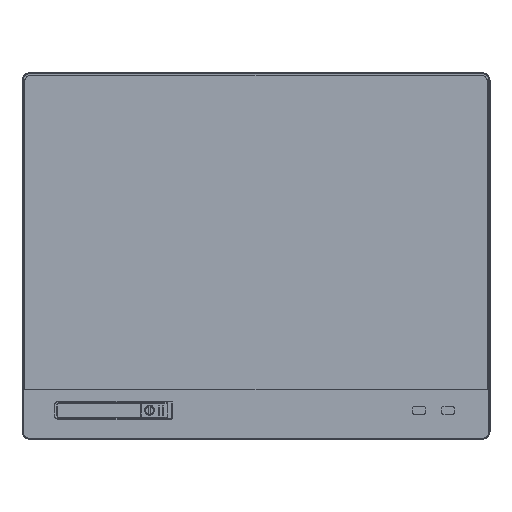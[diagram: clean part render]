
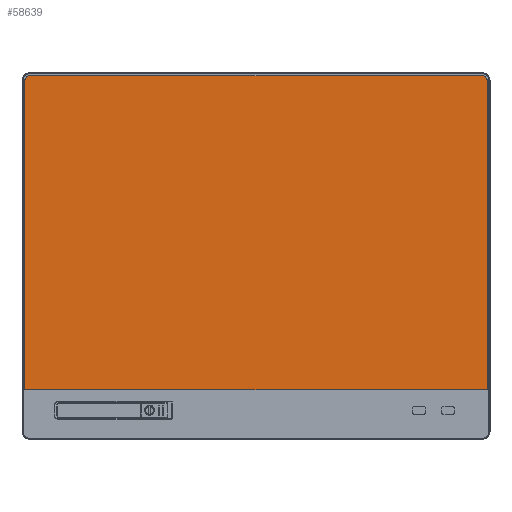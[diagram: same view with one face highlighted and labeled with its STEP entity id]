
A CAD part, top view. The second image highlights one B-rep face of the part: STEP entity #58639.
In plain terms, the highlighted planar face has unit normal (0, 0, 1).
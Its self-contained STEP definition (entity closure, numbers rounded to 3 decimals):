
#7517=CARTESIAN_POINT('',(-156.7,123.2,2.25));
#7518=DIRECTION('',(0.,0.,1.));
#7519=DIRECTION('',(0.,1.,0.));
#7520=AXIS2_PLACEMENT_3D('',#7517,#7518,#7519);
#7522=DIRECTION('',(-1.,0.,0.));
#7523=VECTOR('',#7522,313.4);
#7524=CARTESIAN_POINT('',(156.7,126.745,2.25));
#7525=LINE('',#7524,#7523);
#7526=CARTESIAN_POINT('',(156.7,123.2,2.25));
#7527=DIRECTION('',(0.,0.,1.));
#7528=DIRECTION('',(1.,0.,0.));
#7529=AXIS2_PLACEMENT_3D('',#7526,#7527,#7528);
#7531=DIRECTION('',(0.,1.,0.));
#7532=VECTOR('',#7531,214.309);
#7533=CARTESIAN_POINT('',(160.245,-91.109,2.25));
#7534=LINE('',#7533,#7532);
#7535=DIRECTION('',(1.,0.,0.));
#7536=VECTOR('',#7535,320.489);
#7537=CARTESIAN_POINT('',(-160.245,-91.109,2.25));
#7538=LINE('',#7537,#7536);
#7539=DIRECTION('',(0.,-1.,0.));
#7540=VECTOR('',#7539,214.309);
#7541=CARTESIAN_POINT('',(-160.245,123.2,2.25));
#7542=LINE('',#7541,#7540);
#40713=CARTESIAN_POINT('',(-156.7,126.745,2.25));
#40714=CARTESIAN_POINT('',(-160.245,123.2,2.25));
#40715=VERTEX_POINT('',#40713);
#40716=VERTEX_POINT('',#40714);
#40717=CARTESIAN_POINT('',(-160.245,-91.109,2.25));
#40718=VERTEX_POINT('',#40717);
#40719=CARTESIAN_POINT('',(160.245,-91.109,2.25));
#40720=VERTEX_POINT('',#40719);
#40721=CARTESIAN_POINT('',(160.245,123.2,2.25));
#40722=VERTEX_POINT('',#40721);
#40723=CARTESIAN_POINT('',(156.7,126.745,2.25));
#40724=VERTEX_POINT('',#40723);
#58626=CARTESIAN_POINT('',(0.,0.,2.25));
#58627=DIRECTION('',(0.,0.,1.));
#58628=DIRECTION('',(1.,0.,0.));
#58629=AXIS2_PLACEMENT_3D('',#58626,#58627,#58628);
#58630=PLANE('',#58629);
#58631=ORIENTED_EDGE('',*,*,#58550,.F.);
#58632=ORIENTED_EDGE('',*,*,#58565,.F.);
#58633=ORIENTED_EDGE('',*,*,#58579,.F.);
#58634=ORIENTED_EDGE('',*,*,#58593,.F.);
#58635=ORIENTED_EDGE('',*,*,#58607,.F.);
#58636=ORIENTED_EDGE('',*,*,#58620,.F.);
#58637=EDGE_LOOP('',(#58631,#58632,#58633,#58634,#58635,#58636));
#58638=FACE_OUTER_BOUND('',#58637,.F.);
#58639=ADVANCED_FACE('',(#58638),#58630,.T.);
#7521=CIRCLE('',#7520,3.545);
#7530=CIRCLE('',#7529,3.545);
#58550=EDGE_CURVE('',#40715,#40716,#7521,.T.);
#58565=EDGE_CURVE('',#40724,#40715,#7525,.T.);
#58579=EDGE_CURVE('',#40722,#40724,#7530,.T.);
#58593=EDGE_CURVE('',#40720,#40722,#7534,.T.);
#58607=EDGE_CURVE('',#40718,#40720,#7538,.T.);
#58620=EDGE_CURVE('',#40716,#40718,#7542,.T.);
